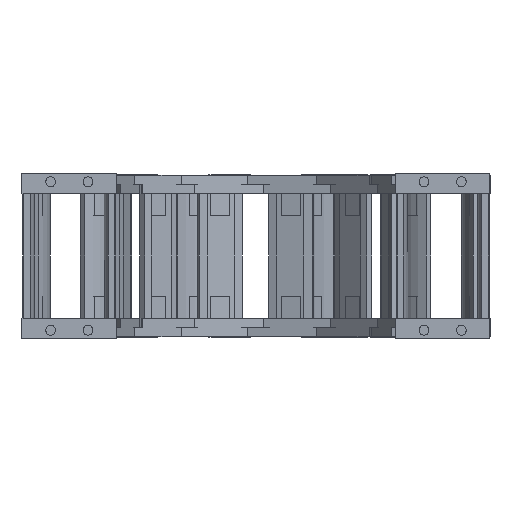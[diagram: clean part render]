
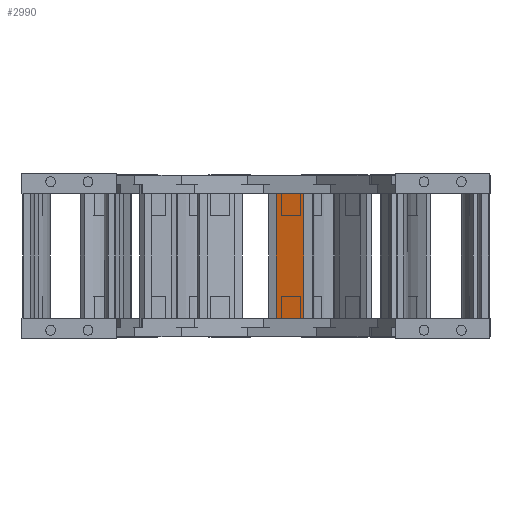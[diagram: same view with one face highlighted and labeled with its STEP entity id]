
A CAD part, left-side view. The second image highlights one B-rep face of the part: STEP entity #2990.
In plain terms, the highlighted planar face has unit normal (-0.967, 0.255, 0) as drawn and (0, -1, 0) by its records, which use the part's own axes.
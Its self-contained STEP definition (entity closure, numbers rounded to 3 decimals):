
#2823=DIRECTION('',(0.,0.,-1.));
#2824=VECTOR('',#2823,100.3);
#2825=CARTESIAN_POINT('',(-11.5,-72.,37.5));
#2826=LINE('',#2825,#2824);
#2852=DIRECTION('',(1.,0.,0.));
#2853=VECTOR('',#2852,23.);
#2854=CARTESIAN_POINT('',(-11.5,-72.,37.5));
#2855=LINE('',#2854,#2853);
#2909=DIRECTION('',(-1.,0.,0.));
#2910=VECTOR('',#2909,23.);
#2911=CARTESIAN_POINT('',(11.5,-72.,-62.8));
#2912=LINE('',#2911,#2910);
#2937=DIRECTION('',(0.,0.,-1.));
#2938=VECTOR('',#2937,100.3);
#2939=CARTESIAN_POINT('',(11.5,-72.,37.5));
#2940=LINE('',#2939,#2938);
#2957=CARTESIAN_POINT('',(11.5,-72.,-62.8));
#2958=VERTEX_POINT('',#2957);
#2959=CARTESIAN_POINT('',(-11.5,-72.,-62.8));
#2960=VERTEX_POINT('',#2959);
#2969=CARTESIAN_POINT('',(11.5,-72.,37.5));
#2970=VERTEX_POINT('',#2969);
#2973=CARTESIAN_POINT('',(-11.5,-72.,37.5));
#2974=VERTEX_POINT('',#2973);
#2975=CARTESIAN_POINT('',(15.5,-72.,-62.8));
#2976=DIRECTION('',(0.,1.,0.));
#2977=DIRECTION('',(-1.,0.,0.));
#2978=AXIS2_PLACEMENT_3D('',#2975,#2976,#2977);
#2979=PLANE('',#2978);
#2981=ORIENTED_EDGE('',*,*,#2980,.F.);
#2983=ORIENTED_EDGE('',*,*,#2982,.T.);
#2985=ORIENTED_EDGE('',*,*,#2984,.T.);
#2987=ORIENTED_EDGE('',*,*,#2986,.T.);
#2988=EDGE_LOOP('',(#2981,#2983,#2985,#2987));
#2989=FACE_OUTER_BOUND('',#2988,.F.);
#2990=ADVANCED_FACE('',(#2989),#2979,.F.);
#2980=EDGE_CURVE('',#2974,#2960,#2826,.T.);
#2982=EDGE_CURVE('',#2974,#2970,#2855,.T.);
#2984=EDGE_CURVE('',#2970,#2958,#2940,.T.);
#2986=EDGE_CURVE('',#2958,#2960,#2912,.T.);
